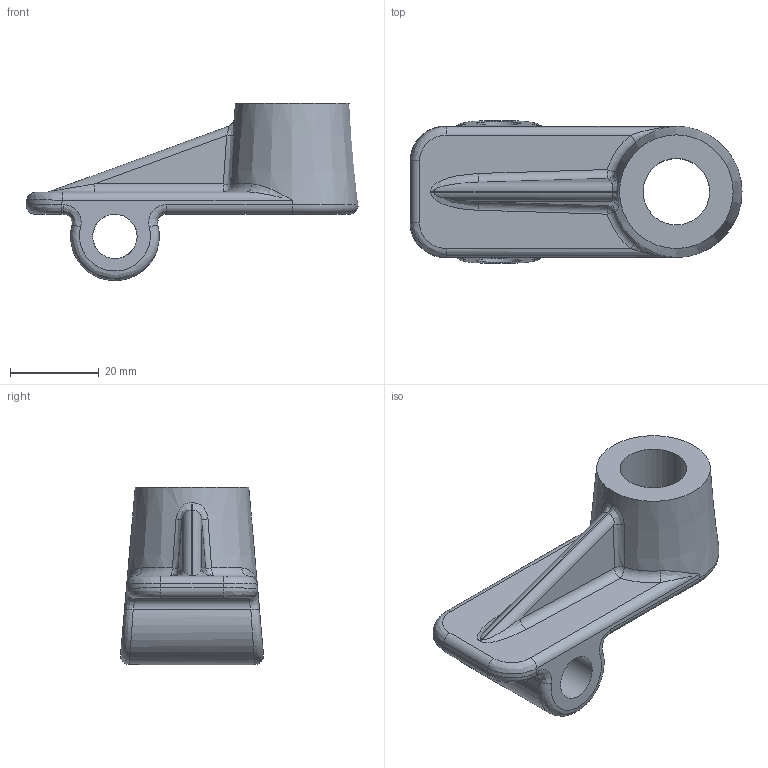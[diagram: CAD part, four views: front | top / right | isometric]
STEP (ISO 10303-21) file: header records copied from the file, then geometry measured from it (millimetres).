
FILE_DESCRIPTION(/* description */ (''),/* implementation_level */ '2;1');
FILE_NAME(/* name */ '2024 model mania phase 2.step',/* time_stamp */ '2026-07-13T21:26:11+01:00',/* author */ (''),/* organization */ (''),/* preprocessor_version */ 'ST-DEVELOPER v20.1',/* originating_system */ 'Autodesk Translation Framework v15.8.0.0',/* authorisation */ '');
FILE_SCHEMA (('AUTOMOTIVE_DESIGN { 1 0 10303 214 3 1 1 }'));
Length unit declared in the file: millimetre
Products named in the file (2): 2024 model mania phase 2; 2024 model mania phase 1 v1
Assembly tree (1 placements, depth 2):
  2024 model mania phase 2
    2024 model mania phase 1 v1
Bounding box: 74.87 x 32.24 x 39.97 mm (x, y, z)
Volume: 24570.8 mm3; surface area: 9583 mm2
Topology: 1 solids, 1 shells, 55 faces, 130 edges, 75 vertices
Faces by surface type: bspline 21, cylinder 18, plane 10, torus 3, sphere 2, cone 1
Full cylindrical faces by diameter (mm): 10 x1, 15 x1
Entity records: 2560 total; most frequent: CARTESIAN_POINT 1340, ORIENTED_EDGE 256, DIRECTION 225, EDGE_CURVE 128, AXIS2_PLACEMENT_3D 94, VERTEX_POINT 75, EDGE_LOOP 59, FACE_OUTER_BOUND 55
